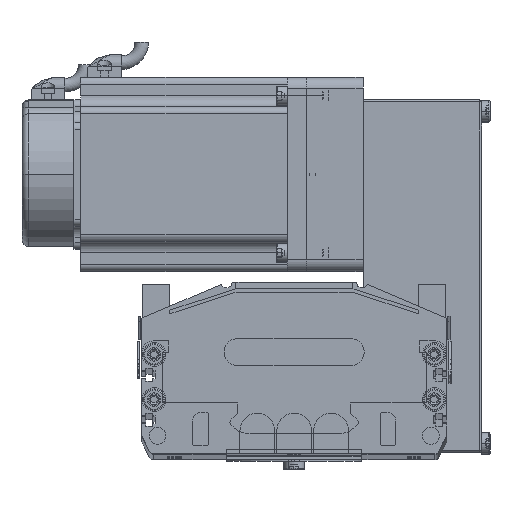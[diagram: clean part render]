
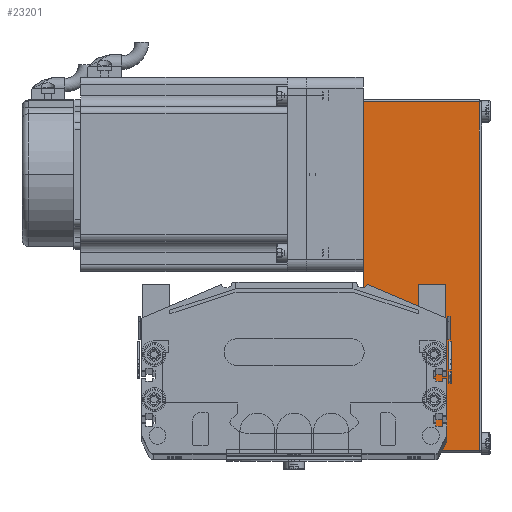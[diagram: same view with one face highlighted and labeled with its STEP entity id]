
A CAD part, top view. The second image highlights one B-rep face of the part: STEP entity #23201.
In plain terms, the highlighted planar face has unit normal (0, 0, 1) as drawn and (0, -1, 0) by its records, which use the part's own axes.
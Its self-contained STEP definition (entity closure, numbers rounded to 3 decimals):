
#22853 = VERTEX_POINT ( 'NONE', #49566 ) ;
#23017 = VERTEX_POINT ( 'NONE', #50387 ) ;
#23183 = EDGE_LOOP ( 'NONE', ( #23362, #23456, #23544, #23301 ) ) ;
#23201 = ADVANCED_FACE ( 'NONE', ( #51189 ), #51153, .F. ) ;
#23203 = VERTEX_POINT ( 'NONE', #72787 ) ;
#23301 = ORIENTED_EDGE ( 'NONE', *, *, #23452, .T. ) ;
#23303 = VERTEX_POINT ( 'NONE', #68713 ) ;
#23324 = EDGE_CURVE ( 'NONE', #22853, #23303, #68588, .T. ) ;
#23362 = ORIENTED_EDGE ( 'NONE', *, *, #23395, .T. ) ;
#23395 = EDGE_CURVE ( 'NONE', #23017, #22853, #68390, .T. ) ;
#23452 = EDGE_CURVE ( 'NONE', #23203, #23017, #68699, .T. ) ;
#23456 = ORIENTED_EDGE ( 'NONE', *, *, #23324, .T. ) ;
#23537 = EDGE_CURVE ( 'NONE', #23303, #23203, #68820, .T. ) ;
#23544 = ORIENTED_EDGE ( 'NONE', *, *, #23537, .T. ) ;
#49566 = CARTESIAN_POINT ( 'NONE',  ( 31., -40., 0. ) ) ;
#50387 = CARTESIAN_POINT ( 'NONE',  ( -123.2, -40., 0. ) ) ;
#51153 = PLANE ( 'NONE',  #51158 ) ;
#51158 = AXIS2_PLACEMENT_3D ( 'NONE', #51176, #51174, #51165 ) ;
#51165 = DIRECTION ( 'NONE',  ( -1., 0., 0. ) ) ;
#51174 = DIRECTION ( 'NONE',  ( 0., 1., 0. ) ) ;
#51176 = CARTESIAN_POINT ( 'NONE',  ( 32., -40., 52.5 ) ) ;
#51189 = FACE_OUTER_BOUND ( 'NONE', #23183, .T. ) ;
#68382 = DIRECTION ( 'NONE',  ( 1., 0., 0. ) ) ;
#68383 = VECTOR ( 'NONE', #68382, 1000. ) ;
#68389 = CARTESIAN_POINT ( 'NONE',  ( 32., -40., 0. ) ) ;
#68390 = LINE ( 'NONE', #68389, #68383 ) ;
#68587 = CARTESIAN_POINT ( 'NONE',  ( 31., -40., 52.5 ) ) ;
#68588 = LINE ( 'NONE', #68587, #68851 ) ;
#68686 = DIRECTION ( 'NONE',  ( 0., 0., -1. ) ) ;
#68687 = VECTOR ( 'NONE', #68686, 1000. ) ;
#68690 = CARTESIAN_POINT ( 'NONE',  ( -123.2, -40., 52.5 ) ) ;
#68699 = LINE ( 'NONE', #68690, #68687 ) ;
#68713 = CARTESIAN_POINT ( 'NONE',  ( 31., -40., 51.5 ) ) ;
#68816 = DIRECTION ( 'NONE',  ( -1., 0., 0. ) ) ;
#68817 = VECTOR ( 'NONE', #68816, 1000. ) ;
#68819 = CARTESIAN_POINT ( 'NONE',  ( 32., -40., 51.5 ) ) ;
#68820 = LINE ( 'NONE', #68819, #68817 ) ;
#68850 = DIRECTION ( 'NONE',  ( 0., 0., 1. ) ) ;
#68851 = VECTOR ( 'NONE', #68850, 1000. ) ;
#72787 = CARTESIAN_POINT ( 'NONE',  ( -123.2, -40., 51.5 ) ) ;
